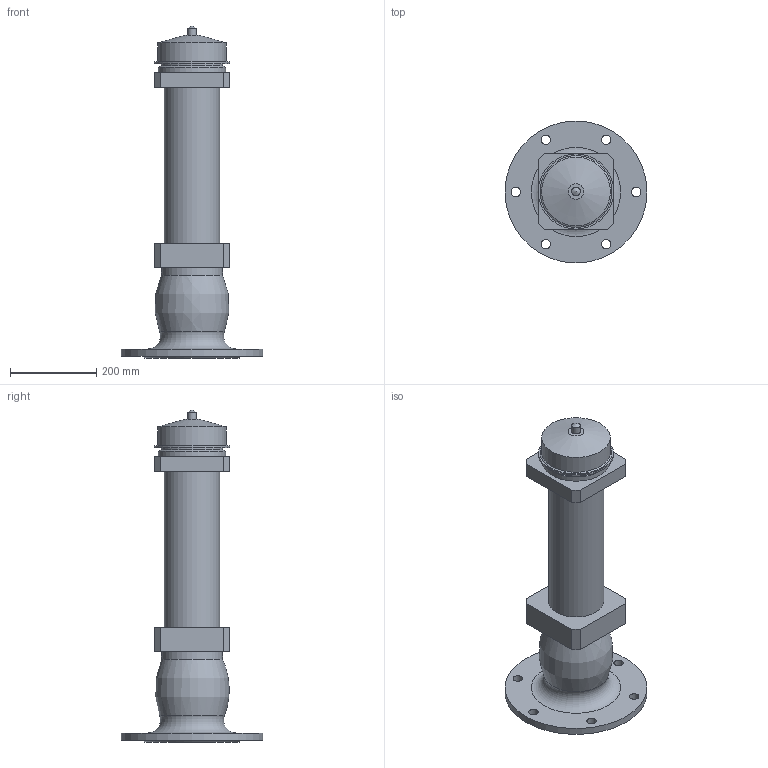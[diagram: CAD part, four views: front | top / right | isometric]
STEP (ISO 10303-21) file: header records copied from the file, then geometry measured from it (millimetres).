
FILE_DESCRIPTION(('STEP AP203'), '1');
FILE_NAME('Ãèäðàíò GPP 750 ïîæàðíûé ïîäçåìíûé', '', ('UNSPECIFIED'), ('UNSPECIFIED'), 'ASCON STEP Converter 1.6', 'ASCON Math Kernel', '');
FILE_SCHEMA(('CONFIG_CONTROL_DESIGN'));
Length unit declared in the file: millimetre
Bounding box: 330 x 330 x 772 mm (x, y, z)
Volume: 14471395.4 mm3; surface area: 604266.1 mm2
Topology: 1 solids, 1 shells, 47 faces, 104 edges, 67 vertices
Faces by surface type: plane 26, cylinder 12, cone 7, torus 2
Full cylindrical faces by diameter (mm): 20 x1, 22 x6, 129 x1, 142 x1, 143 x1, 157.302 x1, 160 x1
Entity records: 1617 total; most frequent: DIRECTION 212, CARTESIAN_POINT 196, ORIENTED_EDGE 164, EDGE_LOOP 88, AXIS2_PLACEMENT_3D 82, EDGE_CURVE 82, VERTEX_POINT 66, COLOUR_RGB 48
